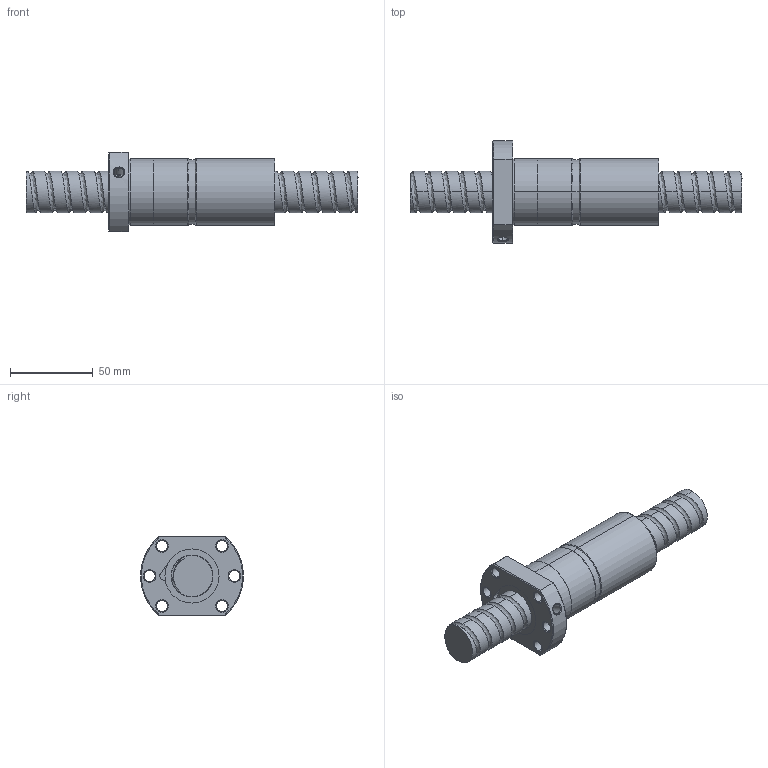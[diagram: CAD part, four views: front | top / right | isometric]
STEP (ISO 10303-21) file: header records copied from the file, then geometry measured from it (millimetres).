
FILE_DESCRIPTION (( 'STEP AP214' ), '1' );
FILE_NAME ('FDDC02510T3-B-C.STEP', '2010-07-06T03:04:00', ( 'XPAUTO' ), ( 'XPAUTO' ), 'SwSTEP 2.0', 'SolidWorks 2007', '' );
FILE_SCHEMA (( 'AUTOMOTIVE_DESIGN' ));
Length unit declared in the file: millimetre
Products named in the file (3): FDDC02510T3-B-C; FDDC02510T3-B-C.sldasm-Part-2_預設; FDDC02510T3-B-C.sldasm-Part-1_預設
Assembly tree (2 placements, depth 2):
  FDDC02510T3-B-C
    FDDC02510T3-B-C.sldasm-Part-1_預設
    FDDC02510T3-B-C.sldasm-Part-2_預設
Bounding box: 200 x 61.8 x 48 mm (x, y, z)
Volume: 181794 mm3; surface area: 45333.5 mm2
Topology: 2 solids, 2 shells, 146 faces, 364 edges, 227 vertices
Faces by surface type: cylinder 85, cone 24, plane 22, torus 10, bspline 5
Entity records: 26753 total; most frequent: CARTESIAN_POINT 23299, ORIENTED_EDGE 728, DIRECTION 670, EDGE_CURVE 364, AXIS2_PLACEMENT_3D 272, VERTEX_POINT 227, EDGE_LOOP 167, ADVANCED_FACE 146
